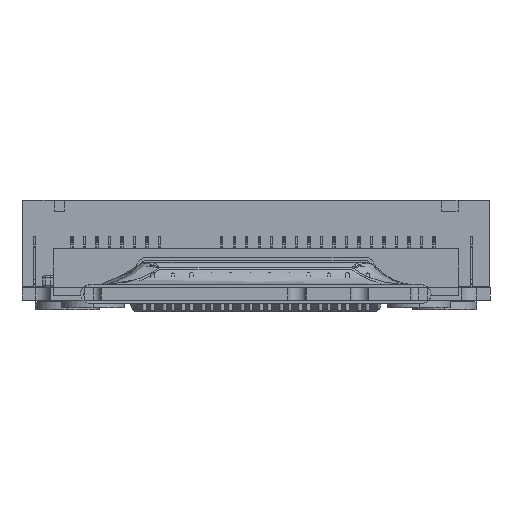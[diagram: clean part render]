
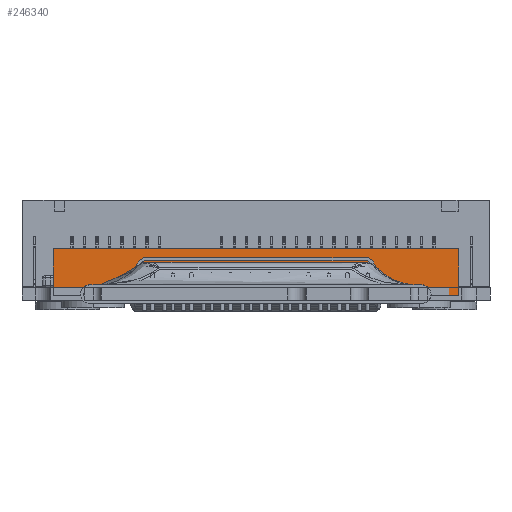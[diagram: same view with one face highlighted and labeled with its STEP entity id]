
A CAD part, front view. The second image highlights one B-rep face of the part: STEP entity #246340.
In plain terms, the highlighted planar face has unit normal (0, -1, 0) as drawn and (0, 1, 0) by its records, which use the part's own axes.
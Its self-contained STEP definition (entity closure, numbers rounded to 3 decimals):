
#246147 = EDGE_CURVE('',#246148,#246150,#246152,.T.);
#246148 = VERTEX_POINT('',#246149);
#246149 = CARTESIAN_POINT('',(75.096,28.2,-3.));
#246150 = VERTEX_POINT('',#246151);
#246151 = CARTESIAN_POINT('',(75.096,28.2,-1.3));
#246152 = LINE('',#246153,#246154);
#246153 = CARTESIAN_POINT('',(75.096,28.2,-3.));
#246154 = VECTOR('',#246155,1.);
#246155 = DIRECTION('',(0.,0.,1.));
#246222 = VERTEX_POINT('',#246223);
#246223 = CARTESIAN_POINT('',(90.806,28.2,-1.3));
#246229 = EDGE_CURVE('',#246230,#246222,#246232,.T.);
#246230 = VERTEX_POINT('',#246231);
#246231 = CARTESIAN_POINT('',(90.806,28.2,-3.));
#246232 = LINE('',#246233,#246234);
#246233 = CARTESIAN_POINT('',(90.806,28.2,-3.));
#246234 = VECTOR('',#246235,1.);
#246235 = DIRECTION('',(0.,0.,1.));
#246314 = VERTEX_POINT('',#246315);
#246315 = CARTESIAN_POINT('',(69.951,28.2,0.));
#246321 = EDGE_CURVE('',#246322,#246314,#246324,.T.);
#246322 = VERTEX_POINT('',#246323);
#246323 = CARTESIAN_POINT('',(69.951,28.2,-3.));
#246324 = LINE('',#246325,#246326);
#246325 = CARTESIAN_POINT('',(69.951,28.2,-3.));
#246326 = VECTOR('',#246327,1.);
#246327 = DIRECTION('',(0.,0.,1.));
#246340 = ADVANCED_FACE('',(#246341),#246380,.F.);
#246341 = FACE_BOUND('',#246342,.T.);
#246342 = EDGE_LOOP('',(#246343,#246351,#246359,#246365,#246366,#246372,
    #246373,#246379));
#246343 = ORIENTED_EDGE('',*,*,#246344,.T.);
#246344 = EDGE_CURVE('',#246314,#246345,#246347,.T.);
#246345 = VERTEX_POINT('',#246346);
#246346 = CARTESIAN_POINT('',(95.951,28.2,0.));
#246347 = LINE('',#246348,#246349);
#246348 = CARTESIAN_POINT('',(0.,28.2,0.));
#246349 = VECTOR('',#246350,1.);
#246350 = DIRECTION('',(1.,0.,0.));
#246351 = ORIENTED_EDGE('',*,*,#246352,.F.);
#246352 = EDGE_CURVE('',#246353,#246345,#246355,.T.);
#246353 = VERTEX_POINT('',#246354);
#246354 = CARTESIAN_POINT('',(95.951,28.2,-3.));
#246355 = LINE('',#246356,#246357);
#246356 = CARTESIAN_POINT('',(95.951,28.2,-3.));
#246357 = VECTOR('',#246358,1.);
#246358 = DIRECTION('',(0.,0.,1.));
#246359 = ORIENTED_EDGE('',*,*,#246360,.F.);
#246360 = EDGE_CURVE('',#246230,#246353,#246361,.T.);
#246361 = LINE('',#246362,#246363);
#246362 = CARTESIAN_POINT('',(0.,28.2,-3.));
#246363 = VECTOR('',#246364,1.);
#246364 = DIRECTION('',(1.,0.,0.));
#246365 = ORIENTED_EDGE('',*,*,#246229,.T.);
#246366 = ORIENTED_EDGE('',*,*,#246367,.F.);
#246367 = EDGE_CURVE('',#246150,#246222,#246368,.T.);
#246368 = LINE('',#246369,#246370);
#246369 = CARTESIAN_POINT('',(0.,28.2,-1.3));
#246370 = VECTOR('',#246371,1.);
#246371 = DIRECTION('',(1.,0.,0.));
#246372 = ORIENTED_EDGE('',*,*,#246147,.F.);
#246373 = ORIENTED_EDGE('',*,*,#246374,.F.);
#246374 = EDGE_CURVE('',#246322,#246148,#246375,.T.);
#246375 = LINE('',#246376,#246377);
#246376 = CARTESIAN_POINT('',(0.,28.2,-3.));
#246377 = VECTOR('',#246378,1.);
#246378 = DIRECTION('',(1.,0.,0.));
#246379 = ORIENTED_EDGE('',*,*,#246321,.T.);
#246380 = PLANE('',#246381);
#246381 = AXIS2_PLACEMENT_3D('',#246382,#246383,#246384);
#246382 = CARTESIAN_POINT('',(0.,28.2,-3.));
#246383 = DIRECTION('',(0.,-1.,0.));
#246384 = DIRECTION('',(0.,0.,-1.));
